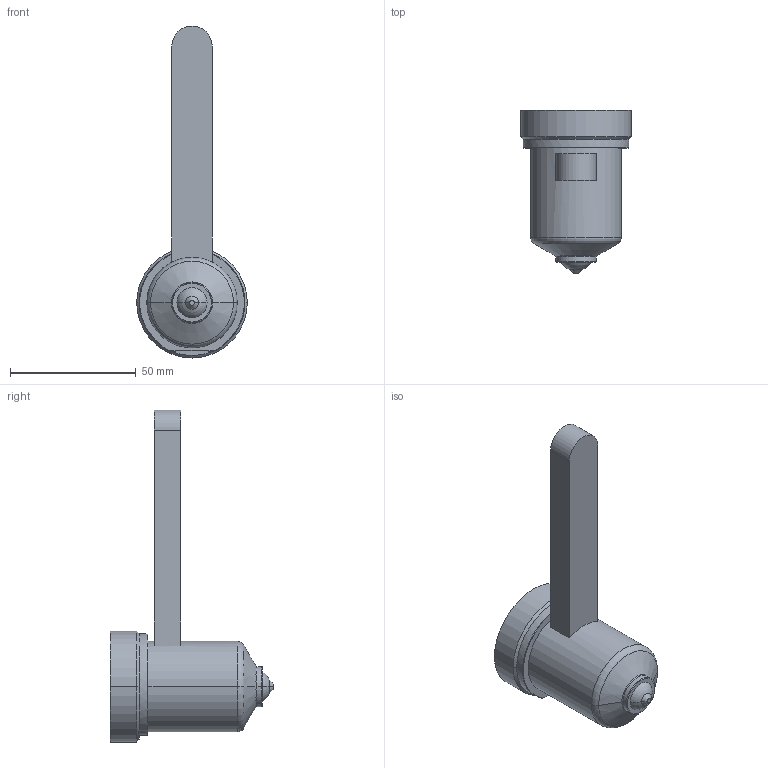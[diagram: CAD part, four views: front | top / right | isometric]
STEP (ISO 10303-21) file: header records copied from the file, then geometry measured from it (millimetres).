
FILE_DESCRIPTION((''),'2;1');
FILE_NAME('EO12_PG-BL_STD_050_COT','2024-02-19T11:11:21',('sundharh'),(''),'CREO PARAMETRIC BY PTC INC, 2023154','CREO PARAMETRIC BY PTC INC, 2023154','');
FILE_SCHEMA(('CONFIG_CONTROL_DESIGN'));
Length unit declared in the file: millimetre
Products named in the file (1): EO12_PG-BL_STD_050_COT
Bounding box: 44 x 65 x 132 mm (x, y, z)
Volume: 79234.6 mm3; surface area: 14254.6 mm2
Topology: 1 solids, 1 shells, 40 faces, 85 edges, 50 vertices
Faces by surface type: cylinder 13, plane 10, torus 9, cone 6, sphere 2
Entity records: 1185 total; most frequent: CARTESIAN_POINT 255, DIRECTION 209, ORIENTED_EDGE 170, AXIS2_PLACEMENT_3D 90, EDGE_CURVE 85, VERTEX_POINT 50, CIRCLE 50, EDGE_LOOP 43
